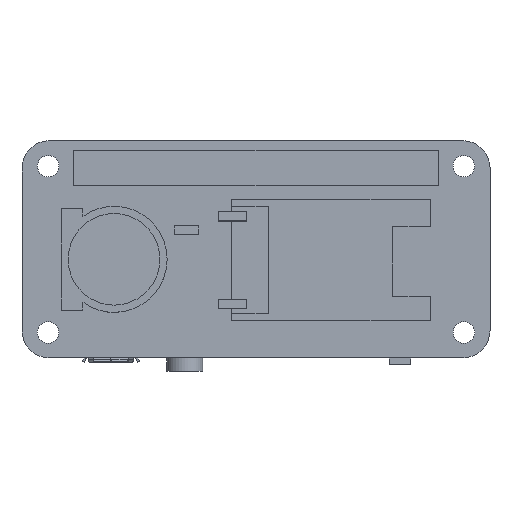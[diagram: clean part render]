
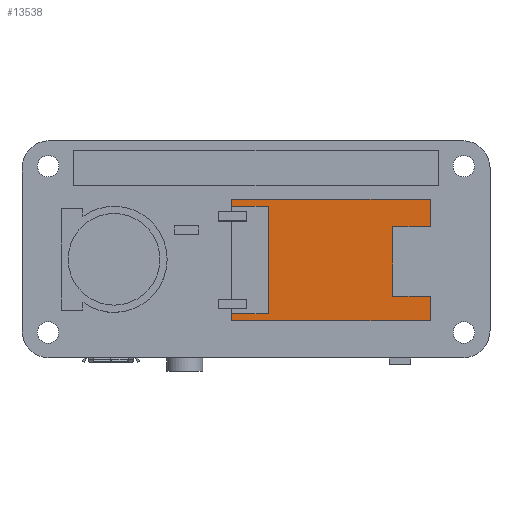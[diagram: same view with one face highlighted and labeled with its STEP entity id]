
A CAD part, top view. The second image highlights one B-rep face of the part: STEP entity #13538.
In plain terms, the highlighted planar face has unit normal (0, 0, 1).
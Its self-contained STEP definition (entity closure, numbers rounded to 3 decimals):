
#1117=DIRECTION('',(1.,0.,0.));
#1118=VECTOR('',#1117,5.1);
#1119=CARTESIAN_POINT('',(-3.4,-9.,3.2));
#1120=LINE('',#1119,#1118);
#1121=DIRECTION('',(0.,1.,0.));
#1122=VECTOR('',#1121,15.);
#1123=CARTESIAN_POINT('',(1.7,-9.,3.2));
#1124=LINE('',#1123,#1122);
#1125=DIRECTION('',(1.,0.,0.));
#1126=VECTOR('',#1125,5.1);
#1127=CARTESIAN_POINT('',(-3.4,6.,3.2));
#1128=LINE('',#1127,#1126);
#1129=DIRECTION('',(0.,-1.,0.));
#1130=VECTOR('',#1129,1.);
#1131=CARTESIAN_POINT('',(-3.4,7.,3.2));
#1132=LINE('',#1131,#1130);
#1133=DIRECTION('',(-1.,0.,0.));
#1134=VECTOR('',#1133,27.7);
#1135=CARTESIAN_POINT('',(24.3,7.,3.2));
#1136=LINE('',#1135,#1134);
#1137=DIRECTION('',(0.,1.,0.));
#1138=VECTOR('',#1137,3.85);
#1139=CARTESIAN_POINT('',(24.3,3.15,3.2));
#1140=LINE('',#1139,#1138);
#1141=DIRECTION('',(-1.,0.,0.));
#1142=VECTOR('',#1141,5.2);
#1143=CARTESIAN_POINT('',(24.3,3.15,3.2));
#1144=LINE('',#1143,#1142);
#1145=DIRECTION('',(0.,-1.,0.));
#1146=VECTOR('',#1145,9.7);
#1147=CARTESIAN_POINT('',(19.1,3.15,3.2));
#1148=LINE('',#1147,#1146);
#1149=DIRECTION('',(-1.,0.,0.));
#1150=VECTOR('',#1149,5.2);
#1151=CARTESIAN_POINT('',(24.3,-6.55,3.2));
#1152=LINE('',#1151,#1150);
#1153=DIRECTION('',(0.,1.,0.));
#1154=VECTOR('',#1153,3.45);
#1155=CARTESIAN_POINT('',(24.3,-10.,3.2));
#1156=LINE('',#1155,#1154);
#1157=DIRECTION('',(1.,0.,0.));
#1158=VECTOR('',#1157,27.7);
#1159=CARTESIAN_POINT('',(-3.4,-10.,3.2));
#1160=LINE('',#1159,#1158);
#1161=DIRECTION('',(0.,-1.,0.));
#1162=VECTOR('',#1161,1.);
#1163=CARTESIAN_POINT('',(-3.4,-9.,3.2));
#1164=LINE('',#1163,#1162);
#12162=CARTESIAN_POINT('',(-3.4,-10.,3.2));
#12163=CARTESIAN_POINT('',(24.3,-10.,3.2));
#12164=VERTEX_POINT('',#12162);
#12165=VERTEX_POINT('',#12163);
#12166=CARTESIAN_POINT('',(24.3,7.,3.2));
#12167=CARTESIAN_POINT('',(-3.4,7.,3.2));
#12168=VERTEX_POINT('',#12166);
#12169=VERTEX_POINT('',#12167);
#12182=CARTESIAN_POINT('',(19.1,3.15,3.2));
#12183=CARTESIAN_POINT('',(19.1,-6.55,3.2));
#12184=VERTEX_POINT('',#12182);
#12185=VERTEX_POINT('',#12183);
#12186=CARTESIAN_POINT('',(24.3,-6.55,3.2));
#12187=VERTEX_POINT('',#12186);
#12188=CARTESIAN_POINT('',(24.3,3.15,3.2));
#12189=VERTEX_POINT('',#12188);
#12198=CARTESIAN_POINT('',(-3.4,-9.,3.2));
#12199=CARTESIAN_POINT('',(1.7,-9.,3.2));
#12200=VERTEX_POINT('',#12198);
#12201=VERTEX_POINT('',#12199);
#12202=CARTESIAN_POINT('',(1.7,6.,3.2));
#12203=VERTEX_POINT('',#12202);
#12204=CARTESIAN_POINT('',(-3.4,6.,3.2));
#12205=VERTEX_POINT('',#12204);
#13510=CARTESIAN_POINT('',(0.,0.,3.2));
#13511=DIRECTION('',(0.,0.,1.));
#13512=DIRECTION('',(1.,0.,0.));
#13513=AXIS2_PLACEMENT_3D('',#13510,#13511,#13512);
#13514=PLANE('',#13513);
#13516=ORIENTED_EDGE('',*,*,#13515,.T.);
#13518=ORIENTED_EDGE('',*,*,#13517,.T.);
#13519=ORIENTED_EDGE('',*,*,#13501,.F.);
#13520=ORIENTED_EDGE('',*,*,#13383,.F.);
#13522=ORIENTED_EDGE('',*,*,#13521,.F.);
#13524=ORIENTED_EDGE('',*,*,#13523,.F.);
#13526=ORIENTED_EDGE('',*,*,#13525,.T.);
#13528=ORIENTED_EDGE('',*,*,#13527,.T.);
#13530=ORIENTED_EDGE('',*,*,#13529,.F.);
#13532=ORIENTED_EDGE('',*,*,#13531,.F.);
#13534=ORIENTED_EDGE('',*,*,#13533,.F.);
#13535=ORIENTED_EDGE('',*,*,#13403,.F.);
#13536=EDGE_LOOP('',(#13516,#13518,#13519,#13520,#13522,#13524,#13526,#13528,
#13530,#13532,#13534,#13535));
#13537=FACE_OUTER_BOUND('',#13536,.F.);
#13538=ADVANCED_FACE('',(#13537),#13514,.T.);
#13383=EDGE_CURVE('',#12169,#12205,#1132,.T.);
#13403=EDGE_CURVE('',#12200,#12164,#1164,.T.);
#13501=EDGE_CURVE('',#12205,#12203,#1128,.T.);
#13515=EDGE_CURVE('',#12200,#12201,#1120,.T.);
#13517=EDGE_CURVE('',#12201,#12203,#1124,.T.);
#13521=EDGE_CURVE('',#12168,#12169,#1136,.T.);
#13523=EDGE_CURVE('',#12189,#12168,#1140,.T.);
#13525=EDGE_CURVE('',#12189,#12184,#1144,.T.);
#13527=EDGE_CURVE('',#12184,#12185,#1148,.T.);
#13529=EDGE_CURVE('',#12187,#12185,#1152,.T.);
#13531=EDGE_CURVE('',#12165,#12187,#1156,.T.);
#13533=EDGE_CURVE('',#12164,#12165,#1160,.T.);
